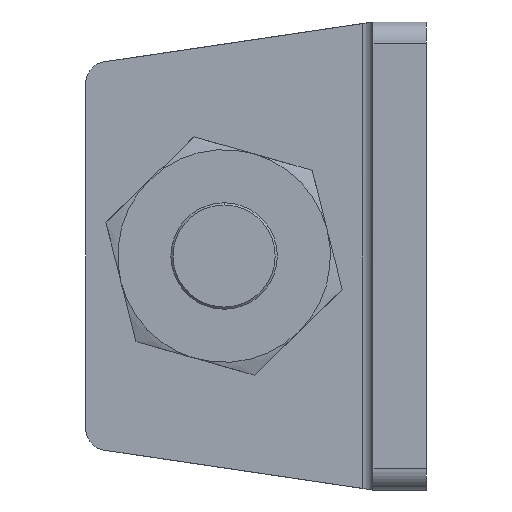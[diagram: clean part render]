
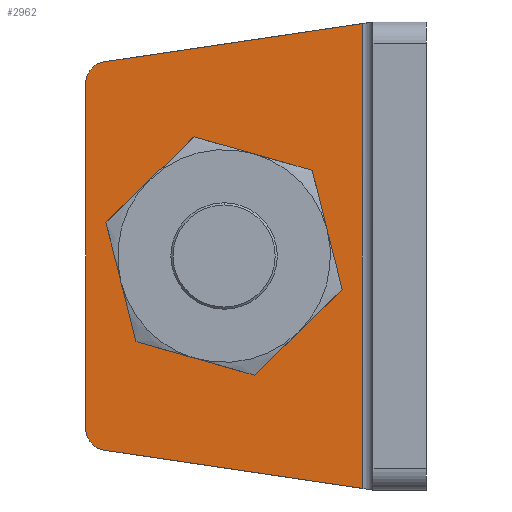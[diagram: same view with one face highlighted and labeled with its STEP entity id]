
A CAD part, left-side view. The second image highlights one B-rep face of the part: STEP entity #2962.
In plain terms, the highlighted planar face has unit normal (-1, 0, 0).
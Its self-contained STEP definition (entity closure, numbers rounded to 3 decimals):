
#14 = ORIENTED_EDGE ( 'NONE', *, *, #3144, .T. ) ;
#39 = AXIS2_PLACEMENT_3D ( 'NONE', #2162, #1418, #1121 ) ;
#48 = CIRCLE ( 'NONE', #2299, 2. ) ;
#90 = DIRECTION ( 'NONE',  ( 0., 1., 0. ) ) ;
#241 = VERTEX_POINT ( 'NONE', #993 ) ;
#313 = ORIENTED_EDGE ( 'NONE', *, *, #2856, .T. ) ;
#379 = VERTEX_POINT ( 'NONE', #2665 ) ;
#402 = EDGE_CURVE ( 'NONE', #2880, #241, #757, .T. ) ;
#434 = CARTESIAN_POINT ( 'NONE',  ( -5., 32., -16.274 ) ) ;
#439 = DIRECTION ( 'NONE',  ( 0., 0., -1. ) ) ;
#466 = AXIS2_PLACEMENT_3D ( 'NONE', #2451, #516, #2652 ) ;
#516 = DIRECTION ( 'NONE',  ( -1., 0., 0. ) ) ;
#529 = VERTEX_POINT ( 'NONE', #434 ) ;
#568 = CIRCLE ( 'NONE', #466, 2. ) ;
#599 = ORIENTED_EDGE ( 'NONE', *, *, #789, .T. ) ;
#757 = CIRCLE ( 'NONE', #39, 5. ) ;
#771 = DIRECTION ( 'NONE',  ( 1., 0., 0. ) ) ;
#788 = EDGE_CURVE ( 'NONE', #1105, #1462, #2814, .T. ) ;
#789 = EDGE_CURVE ( 'NONE', #379, #1367, #568, .T. ) ;
#801 = CARTESIAN_POINT ( 'NONE',  ( -5., 6., -21.852 ) ) ;
#869 = CARTESIAN_POINT ( 'NONE',  ( -5., 19., 0. ) ) ;
#926 = LINE ( 'NONE', #2902, #1351 ) ;
#974 = AXIS2_PLACEMENT_3D ( 'NONE', #1430, #3011, #90 ) ;
#993 = CARTESIAN_POINT ( 'NONE',  ( -5., 19., 5. ) ) ;
#995 = ORIENTED_EDGE ( 'NONE', *, *, #788, .T. ) ;
#1024 = FACE_OUTER_BOUND ( 'NONE', #2304, .T. ) ;
#1032 = LINE ( 'NONE', #2691, #2495 ) ;
#1083 = DIRECTION ( 'NONE',  ( 0., 1., 0. ) ) ;
#1086 = PLANE ( 'NONE',  #974 ) ;
#1105 = VERTEX_POINT ( 'NONE', #2501 ) ;
#1121 = DIRECTION ( 'NONE',  ( 0., 1., 0. ) ) ;
#1213 = EDGE_LOOP ( 'NONE', ( #14, #2003 ) ) ;
#1351 = VECTOR ( 'NONE', #2386, 1000. ) ;
#1367 = VERTEX_POINT ( 'NONE', #2796 ) ;
#1384 = CARTESIAN_POINT ( 'NONE',  ( -5., 19., -5. ) ) ;
#1418 = DIRECTION ( 'NONE',  ( 1., 0., 0. ) ) ;
#1427 = EDGE_CURVE ( 'NONE', #2110, #379, #926, .T. ) ;
#1430 = CARTESIAN_POINT ( 'NONE',  ( -5., 6., 22. ) ) ;
#1433 = EDGE_CURVE ( 'NONE', #2110, #1462, #1032, .T. ) ;
#1462 = VERTEX_POINT ( 'NONE', #801 ) ;
#1485 = DIRECTION ( 'NONE',  ( 0., 0., -1. ) ) ;
#1493 = VECTOR ( 'NONE', #439, 1000. ) ;
#1578 = FACE_BOUND ( 'NONE', #1213, .T. ) ;
#1593 = CARTESIAN_POINT ( 'NONE',  ( -5., 6., 21.852 ) ) ;
#1678 = DIRECTION ( 'NONE',  ( -1., 0., 0. ) ) ;
#1760 = ORIENTED_EDGE ( 'NONE', *, *, #1433, .F. ) ;
#1995 = AXIS2_PLACEMENT_3D ( 'NONE', #869, #771, #2952 ) ;
#2003 = ORIENTED_EDGE ( 'NONE', *, *, #402, .T. ) ;
#2110 = VERTEX_POINT ( 'NONE', #1593 ) ;
#2122 = LINE ( 'NONE', #2734, #1493 ) ;
#2162 = CARTESIAN_POINT ( 'NONE',  ( -5., 19., 0. ) ) ;
#2224 = CARTESIAN_POINT ( 'NONE',  ( -5., 30., -16.274 ) ) ;
#2299 = AXIS2_PLACEMENT_3D ( 'NONE', #2224, #1678, #1083 ) ;
#2304 = EDGE_LOOP ( 'NONE', ( #2351, #599, #2937, #313, #995, #1760 ) ) ;
#2344 = CARTESIAN_POINT ( 'NONE',  ( -5., 12.357, -20.91 ) ) ;
#2351 = ORIENTED_EDGE ( 'NONE', *, *, #1427, .T. ) ;
#2386 = DIRECTION ( 'NONE',  ( 0., 0.989, -0.147 ) ) ;
#2451 = CARTESIAN_POINT ( 'NONE',  ( -5., 30., 16.274 ) ) ;
#2495 = VECTOR ( 'NONE', #1485, 1000. ) ;
#2501 = CARTESIAN_POINT ( 'NONE',  ( -5., 30.293, -18.253 ) ) ;
#2552 = CIRCLE ( 'NONE', #1995, 5. ) ;
#2638 = VECTOR ( 'NONE', #2816, 1000. ) ;
#2652 = DIRECTION ( 'NONE',  ( 0., 1., 0. ) ) ;
#2665 = CARTESIAN_POINT ( 'NONE',  ( -5., 30.293, 18.253 ) ) ;
#2679 = EDGE_CURVE ( 'NONE', #1367, #529, #2122, .T. ) ;
#2691 = CARTESIAN_POINT ( 'NONE',  ( -5., 6., 22. ) ) ;
#2734 = CARTESIAN_POINT ( 'NONE',  ( -5., 32., 22. ) ) ;
#2796 = CARTESIAN_POINT ( 'NONE',  ( -5., 32., 16.274 ) ) ;
#2814 = LINE ( 'NONE', #2344, #2638 ) ;
#2816 = DIRECTION ( 'NONE',  ( 0., -0.989, -0.147 ) ) ;
#2856 = EDGE_CURVE ( 'NONE', #529, #1105, #48, .T. ) ;
#2880 = VERTEX_POINT ( 'NONE', #1384 ) ;
#2902 = CARTESIAN_POINT ( 'NONE',  ( -5., 5.979, 21.855 ) ) ;
#2937 = ORIENTED_EDGE ( 'NONE', *, *, #2679, .T. ) ;
#2952 = DIRECTION ( 'NONE',  ( 0., 1., 0. ) ) ;
#2962 = ADVANCED_FACE ( 'NONE', ( #1578, #1024 ), #1086, .F. ) ;
#3011 = DIRECTION ( 'NONE',  ( 1., 0., 0. ) ) ;
#3144 = EDGE_CURVE ( 'NONE', #241, #2880, #2552, .T. ) ;
